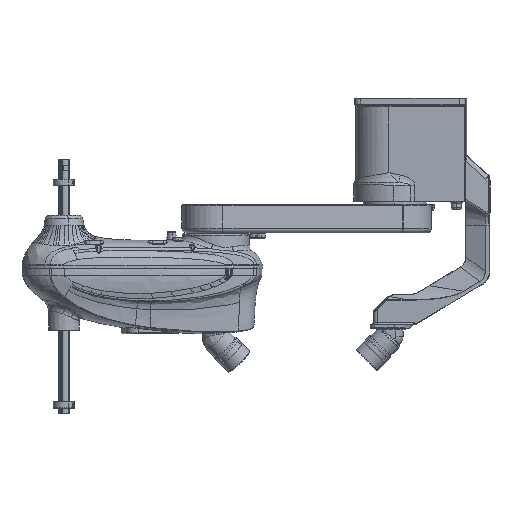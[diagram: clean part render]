
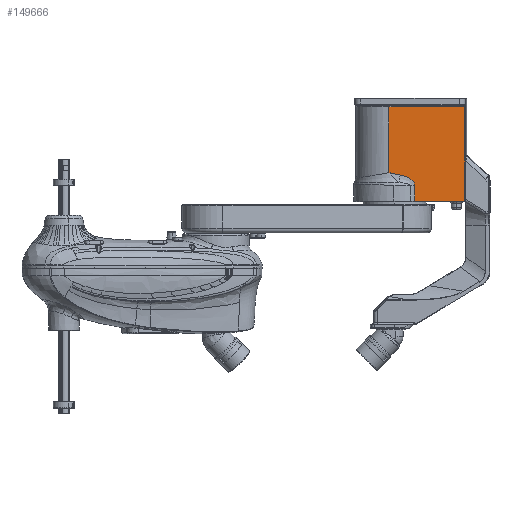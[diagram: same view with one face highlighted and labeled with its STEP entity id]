
A CAD part, front view. The second image highlights one B-rep face of the part: STEP entity #149666.
In plain terms, the highlighted planar face has unit normal (-0.018, -1, 0) as drawn and (0, 0, -1) by its records, which use the part's own axes.
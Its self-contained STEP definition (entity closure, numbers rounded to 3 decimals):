
#267 = CARTESIAN_POINT ( 'NONE',  ( 107.613, 58.061, 1423.001 ) ) ;
#834 = CARTESIAN_POINT ( 'NONE',  ( 126.496, 67.344, 1423.001 ) ) ;
#1711 = EDGE_CURVE ( 'NONE', #124695, #73095, #162041, .T. ) ;
#6397 = CARTESIAN_POINT ( 'NONE',  ( 130.32, 103.644, 1423.001 ) ) ;
#7393 = CARTESIAN_POINT ( 'NONE',  ( 104.811, 57.534, 1423.001 ) ) ;
#10354 = B_SPLINE_CURVE_WITH_KNOTS ( 'NONE', 3,
 ( #102584, #129467, #267, #24316, #116278, #51160, #52853, #144349, #142648, #64329, #155822, #66011, #77457, #157522, #834, #169006, #50603, #90607, #12300, #142077, #103717, #116832, #130036, #51721, #94530, #67682, #93962, #147171 ),
 .UNSPECIFIED., .F., .F.,
 ( 4, 2, 2, 2, 2, 2, 2, 2, 2, 2, 2, 2, 2, 4 ),
 ( 0., 0.004, 0.009, 0.013, 0.017, 0.019, 0.021, 0.026, 0.027, 0.028, 0.03, 0.031, 0.032, 0.034 ),
 .UNSPECIFIED. ) ;
#12300 = CARTESIAN_POINT ( 'NONE',  ( 128.408, 69.942, 1423.001 ) ) ;
#22881 = VECTOR ( 'NONE', #72021, 1000. ) ;
#23148 = VERTEX_POINT ( 'NONE', #42426 ) ;
#24316 = CARTESIAN_POINT ( 'NONE',  ( 110.38, 58.73, 1423.001 ) ) ;
#24915 = EDGE_CURVE ( 'NONE', #73095, #23148, #49145, .T. ) ;
#29514 = VERTEX_POINT ( 'NONE', #119072 ) ;
#31508 = DIRECTION ( 'NONE',  ( 0., 1., 0. ) ) ;
#33570 = B_SPLINE_CURVE_WITH_KNOTS ( 'NONE', 3,
 ( #114952, #129261, #64114, #116629, #142446, #78957 ),
 .UNSPECIFIED., .F., .F.,
 ( 4, 2, 4 ),
 ( 0., 0.01, 0.02 ),
 .UNSPECIFIED. ) ;
#34420 = VECTOR ( 'NONE', #109309, 1000. ) ;
#36162 = ORIENTED_EDGE ( 'NONE', *, *, #164220, .T. ) ;
#37797 = ORIENTED_EDGE ( 'NONE', *, *, #163731, .T. ) ;
#38621 = ORIENTED_EDGE ( 'NONE', *, *, #104767, .T. ) ;
#42426 = CARTESIAN_POINT ( 'NONE',  ( 84.834, -63.356, 1423.001 ) ) ;
#43840 = VECTOR ( 'NONE', #69195, 1000. ) ;
#47312 = AXIS2_PLACEMENT_3D ( 'NONE', #134261, #158900, #82239 ) ;
#49145 = LINE ( 'NONE', #113529, #120627 ) ;
#50603 = CARTESIAN_POINT ( 'NONE',  ( 127.812, 69.046, 1423.001 ) ) ;
#51160 = CARTESIAN_POINT ( 'NONE',  ( 114.465, 60.001, 1423.001 ) ) ;
#51721 = CARTESIAN_POINT ( 'NONE',  ( 129.963, 73.547, 1423.001 ) ) ;
#52853 = CARTESIAN_POINT ( 'NONE',  ( 115.799, 60.502, 1423.001 ) ) ;
#55801 = ORIENTED_EDGE ( 'NONE', *, *, #66795, .T. ) ;
#56038 = CARTESIAN_POINT ( 'NONE',  ( 84.834, 104.644, 1423.001 ) ) ;
#57727 = ORIENTED_EDGE ( 'NONE', *, *, #24915, .T. ) ;
#57998 = VERTEX_POINT ( 'NONE', #7393 ) ;
#60435 = DIRECTION ( 'NONE',  ( -1., 0., 0. ) ) ;
#64114 = CARTESIAN_POINT ( 'NONE',  ( 91.467, 54.828, 1423.001 ) ) ;
#64329 = CARTESIAN_POINT ( 'NONE',  ( 121.494, 63.351, 1423.001 ) ) ;
#66011 = CARTESIAN_POINT ( 'NONE',  ( 123.269, 64.547, 1423.001 ) ) ;
#66795 = EDGE_CURVE ( 'NONE', #105522, #153958, #92874, .T. ) ;
#67682 = CARTESIAN_POINT ( 'NONE',  ( 130.25, 74.941, 1423.001 ) ) ;
#69195 = DIRECTION ( 'NONE',  ( 0., 1., 0. ) ) ;
#72021 = DIRECTION ( 'NONE',  ( 0., -1., 0. ) ) ;
#73095 = VERTEX_POINT ( 'NONE', #94006 ) ;
#77178 = EDGE_LOOP ( 'NONE', ( #103683, #57727, #36162, #37797, #38621, #55801, #115471 ) ) ;
#77457 = CARTESIAN_POINT ( 'NONE',  ( 123.843, 64.98, 1423.001 ) ) ;
#78957 = CARTESIAN_POINT ( 'NONE',  ( 104.811, 57.534, 1423.001 ) ) ;
#82239 = DIRECTION ( 'NONE',  ( -1., 0., 0. ) ) ;
#82955 = CARTESIAN_POINT ( 'NONE',  ( 218.834, 104.644, 1423.001 ) ) ;
#90607 = CARTESIAN_POINT ( 'NONE',  ( 128.217, 69.639, 1423.001 ) ) ;
#92874 = LINE ( 'NONE', #124051, #96955 ) ;
#93809 = LINE ( 'NONE', #6397, #34420 ) ;
#93962 = CARTESIAN_POINT ( 'NONE',  ( 130.32, 75.651, 1423.001 ) ) ;
#94006 = CARTESIAN_POINT ( 'NONE',  ( 218.834, -63.356, 1423.001 ) ) ;
#94530 = CARTESIAN_POINT ( 'NONE',  ( 130.047, 73.893, 1423.001 ) ) ;
#96955 = VECTOR ( 'NONE', #31508, 1000. ) ;
#98303 = CARTESIAN_POINT ( 'NONE',  ( 218.834, 103.644, 1423.001 ) ) ;
#102584 = CARTESIAN_POINT ( 'NONE',  ( 104.811, 57.534, 1423.001 ) ) ;
#103683 = ORIENTED_EDGE ( 'NONE', *, *, #1711, .T. ) ;
#103717 = CARTESIAN_POINT ( 'NONE',  ( 129.26, 71.511, 1423.001 ) ) ;
#104767 = EDGE_CURVE ( 'NONE', #57998, #105522, #10354, .T. ) ;
#105522 = VERTEX_POINT ( 'NONE', #131287 ) ;
#109309 = DIRECTION ( 'NONE',  ( 1., 0., 0. ) ) ;
#113529 = CARTESIAN_POINT ( 'NONE',  ( 219.834, -63.356, 1423.001 ) ) ;
#114952 = CARTESIAN_POINT ( 'NONE',  ( 84.834, 53.294, 1423.001 ) ) ;
#115471 = ORIENTED_EDGE ( 'NONE', *, *, #144846, .T. ) ;
#116278 = CARTESIAN_POINT ( 'NONE',  ( 111.752, 59.114, 1423.001 ) ) ;
#116629 = CARTESIAN_POINT ( 'NONE',  ( 98.119, 56.278, 1423.001 ) ) ;
#116832 = CARTESIAN_POINT ( 'NONE',  ( 129.649, 72.517, 1423.001 ) ) ;
#119072 = CARTESIAN_POINT ( 'NONE',  ( 84.834, 53.294, 1423.001 ) ) ;
#120475 = PLANE ( 'NONE',  #47312 ) ;
#120627 = VECTOR ( 'NONE', #60435, 1000. ) ;
#124051 = CARTESIAN_POINT ( 'NONE',  ( 130.32, 104.644, 1423.001 ) ) ;
#124695 = VERTEX_POINT ( 'NONE', #98303 ) ;
#129261 = CARTESIAN_POINT ( 'NONE',  ( 88.151, 54.058, 1423.001 ) ) ;
#129467 = CARTESIAN_POINT ( 'NONE',  ( 106.217, 57.776, 1423.001 ) ) ;
#130036 = CARTESIAN_POINT ( 'NONE',  ( 129.764, 72.859, 1423.001 ) ) ;
#131287 = CARTESIAN_POINT ( 'NONE',  ( 130.32, 76.374, 1423.001 ) ) ;
#132390 = FACE_OUTER_BOUND ( 'NONE', #77178, .T. ) ;
#134261 = CARTESIAN_POINT ( 'NONE',  ( 24.834, 104.644, 1423.001 ) ) ;
#139972 = LINE ( 'NONE', #56038, #43840 ) ;
#142077 = CARTESIAN_POINT ( 'NONE',  ( 128.947, 70.868, 1423.001 ) ) ;
#142446 = CARTESIAN_POINT ( 'NONE',  ( 101.454, 56.958, 1423.001 ) ) ;
#142648 = CARTESIAN_POINT ( 'NONE',  ( 119.661, 62.27, 1423.001 ) ) ;
#144349 = CARTESIAN_POINT ( 'NONE',  ( 118.396, 61.636, 1423.001 ) ) ;
#144846 = EDGE_CURVE ( 'NONE', #153958, #124695, #93809, .T. ) ;
#147171 = CARTESIAN_POINT ( 'NONE',  ( 130.32, 76.374, 1423.001 ) ) ;
#149666 = ADVANCED_FACE ( 'NONE', ( #132390 ), #120475, .F. ) ;
#152467 = CARTESIAN_POINT ( 'NONE',  ( 130.32, 103.644, 1423.001 ) ) ;
#153958 = VERTEX_POINT ( 'NONE', #152467 ) ;
#155822 = CARTESIAN_POINT ( 'NONE',  ( 122.094, 63.732, 1423.001 ) ) ;
#157522 = CARTESIAN_POINT ( 'NONE',  ( 125.489, 66.344, 1423.001 ) ) ;
#158900 = DIRECTION ( 'NONE',  ( 0., 0., 1. ) ) ;
#162041 = LINE ( 'NONE', #82955, #22881 ) ;
#163731 = EDGE_CURVE ( 'NONE', #29514, #57998, #33570, .T. ) ;
#164220 = EDGE_CURVE ( 'NONE', #23148, #29514, #139972, .T. ) ;
#169006 = CARTESIAN_POINT ( 'NONE',  ( 127.599, 68.754, 1423.001 ) ) ;
